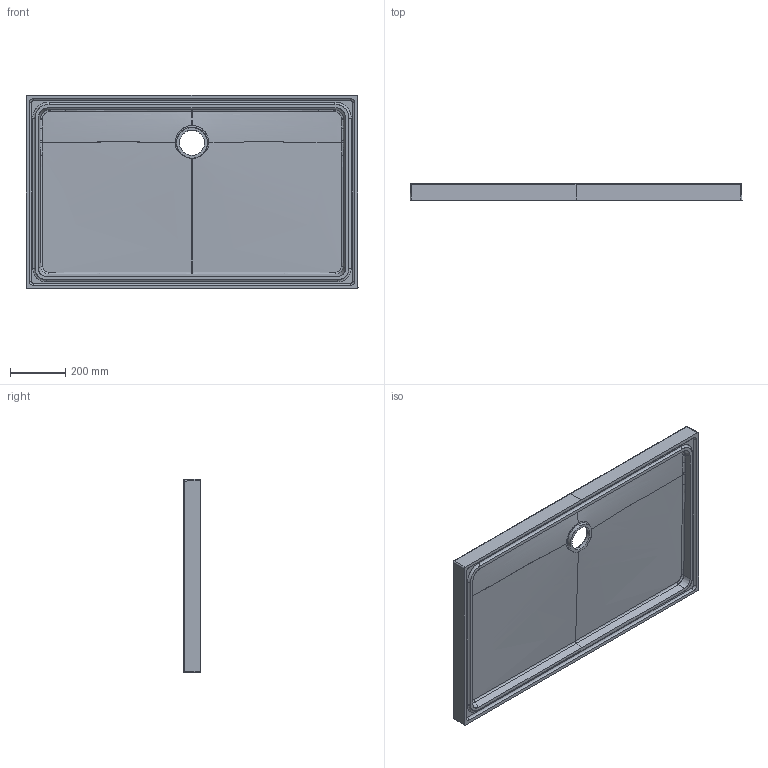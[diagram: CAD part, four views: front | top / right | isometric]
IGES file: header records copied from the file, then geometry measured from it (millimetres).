
Start section: START RECORD GO HERE.
Global section: file name: 1211_3D.igs; native system: DASSAULT SYSTEMES CATIA V5 R19 - www.3ds.com; preprocessor: CATIA Version 5 Release 19 SP 5 ; author: Luca; organization: DESKTOP-V7SON24; date: 20221209.095840; units: millimetre
Bounding box: 1200.19 x 60 x 700.1 mm (x, y, z)
Surface area: 2043154 mm2 (no closed solid volume)
Topology: 0 solids, 0 shells, 415 faces, 1953 edges, 1942 vertices
Faces by surface type: bspline 373, revolution 36, plane 6
